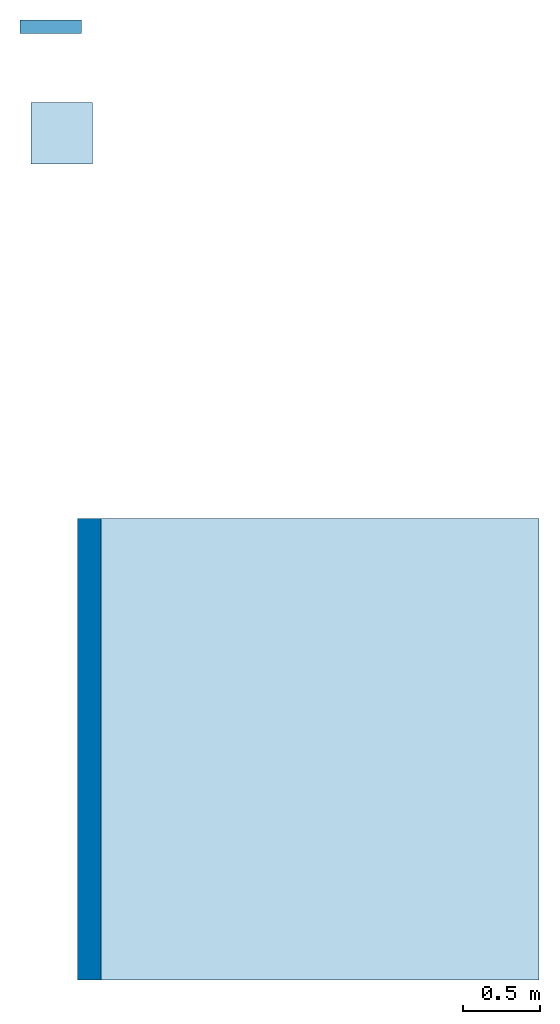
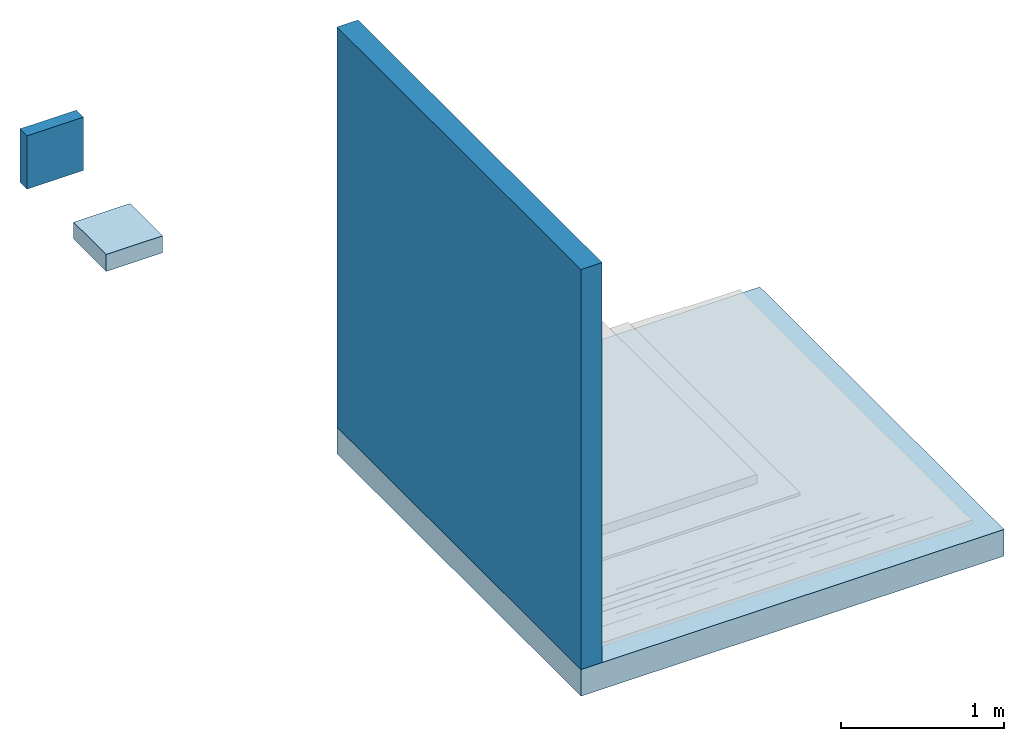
# One storey, part 1 of 2: 2 slabs, 2 walls.
"""IFC2X3 building model written with IfcOpenShell, lengths in metres."""

from ifc_helpers import new_model, entity, si_unit, converted_unit, derived_unit, direction, frame, frame_2d, origin, origin_2d_with_axis, place, context, subcontext, project, spatial, rectangle, extrude, material, layer, layer_set, layer_usage, type_object, element, save


model = new_model("IFC2X3")

# Units and contexts
model_context = context("Model", 3, precision=1e-05, world=origin(), true_north=direction((6.123031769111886e-17, 1.0)))
body_context = subcontext(model_context, "Body", "Model", "MODEL_VIEW")
ifc_project = project(units=[si_unit("LENGTHUNIT", "METRE"), si_unit("AREAUNIT", "SQUARE_METRE"), si_unit("VOLUMEUNIT", "CUBIC_METRE"), converted_unit("PLANEANGLEUNIT", "DEGREE", entity("IfcRatioMeasure", 0.017453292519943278), si_unit("PLANEANGLEUNIT", "RADIAN"), dimensions=[0, 0, 0, 0, 0, 0, 0]), si_unit("MASSUNIT", "GRAM", prefix="KILO"), derived_unit("MASSDENSITYUNIT", [(si_unit("MASSUNIT", "GRAM", prefix="KILO"), 1), (si_unit("LENGTHUNIT", "METRE"), -3)]), derived_unit("IONCONCENTRATIONUNIT", [(si_unit("MASSUNIT", "GRAM", prefix="KILO"), 1), (si_unit("LENGTHUNIT", "METRE"), -3)]), derived_unit("MOMENTOFINERTIAUNIT", [(si_unit("LENGTHUNIT", "METRE"), 4)]), si_unit("TIMEUNIT", "SECOND"), si_unit("FREQUENCYUNIT", "HERTZ"), si_unit("THERMODYNAMICTEMPERATUREUNIT", "DEGREE_CELSIUS"), derived_unit("THERMALTRANSMITTANCEUNIT", [(si_unit("MASSUNIT", "GRAM", prefix="KILO"), 1), (si_unit("THERMODYNAMICTEMPERATUREUNIT", "KELVIN"), -1), (si_unit("TIMEUNIT", "SECOND"), -3)]), derived_unit("THERMALCONDUCTANCEUNIT", [(si_unit("MASSUNIT", "GRAM", prefix="KILO"), 1), (si_unit("THERMODYNAMICTEMPERATUREUNIT", "KELVIN"), -1), (si_unit("TIMEUNIT", "SECOND"), -3), (si_unit("LENGTHUNIT", "METRE"), 1)]), derived_unit("VOLUMETRICFLOWRATEUNIT", [(si_unit("LENGTHUNIT", "METRE"), 3), (si_unit("TIMEUNIT", "SECOND"), -1)]), derived_unit("MASSFLOWRATEUNIT", [(si_unit("MASSUNIT", "GRAM", prefix="KILO"), 1), (si_unit("TIMEUNIT", "SECOND"), -1)]), derived_unit("ROTATIONALFREQUENCYUNIT", [(si_unit("TIMEUNIT", "SECOND"), -1)]), si_unit("ELECTRICCURRENTUNIT", "AMPERE"), si_unit("ELECTRICVOLTAGEUNIT", "VOLT"), si_unit("POWERUNIT", "WATT"), si_unit("FORCEUNIT", "NEWTON", prefix="KILO"), si_unit("ILLUMINANCEUNIT", "LUX"), si_unit("LUMINOUSFLUXUNIT", "LUMEN"), si_unit("LUMINOUSINTENSITYUNIT", "CANDELA"), derived_unit("USERDEFINED", [(si_unit("MASSUNIT", "GRAM", prefix="KILO"), -1), (si_unit("LENGTHUNIT", "METRE"), -2), (si_unit("TIMEUNIT", "SECOND"), 3), (si_unit("LUMINOUSFLUXUNIT", "LUMEN"), 1)]), derived_unit("USERDEFINED", [(si_unit("MASSUNIT", "GRAM", prefix="KILO"), 1), (si_unit("TIMEUNIT", "SECOND"), -3), (si_unit("LENGTHUNIT", "METRE"), 3), (si_unit("ELECTRICCURRENTUNIT", "AMPERE"), -2)]), derived_unit("SOUNDPOWERUNIT", [(si_unit("MASSUNIT", "GRAM", prefix="KILO"), 1), (si_unit("TIMEUNIT", "SECOND"), -3), (si_unit("LENGTHUNIT", "METRE"), 2)]), derived_unit("SOUNDPRESSUREUNIT", [(si_unit("MASSUNIT", "GRAM", prefix="KILO"), 1), (si_unit("LENGTHUNIT", "METRE"), -1), (si_unit("TIMEUNIT", "SECOND"), -2)]), derived_unit("LINEARVELOCITYUNIT", [(si_unit("LENGTHUNIT", "METRE"), 1), (si_unit("TIMEUNIT", "SECOND"), -1)]), si_unit("PRESSUREUNIT", "PASCAL"), derived_unit("USERDEFINED", [(si_unit("MASSUNIT", "GRAM", prefix="KILO"), 1), (si_unit("LENGTHUNIT", "METRE"), -2), (si_unit("TIMEUNIT", "SECOND"), -2)]), derived_unit("LINEARFORCEUNIT", [(si_unit("MASSUNIT", "GRAM", prefix="KILO"), 1), (si_unit("TIMEUNIT", "SECOND"), -2)]), derived_unit("PLANARFORCEUNIT", [(si_unit("MASSUNIT", "GRAM", prefix="KILO"), 1), (si_unit("LENGTHUNIT", "METRE"), -1), (si_unit("TIMEUNIT", "SECOND"), -2)]), derived_unit("SPECIFICHEATCAPACITYUNIT", [(si_unit("THERMODYNAMICTEMPERATUREUNIT", "KELVIN"), -1), (si_unit("LENGTHUNIT", "METRE"), 2), (si_unit("TIMEUNIT", "SECOND"), -2)]), derived_unit("HEATINGVALUEUNIT", [(si_unit("LENGTHUNIT", "METRE"), 2), (si_unit("TIMEUNIT", "SECOND"), -2)]), derived_unit("VAPORPERMEABILITYUNIT", [(si_unit("LENGTHUNIT", "METRE"), -1), (si_unit("TIMEUNIT", "SECOND"), 1)]), derived_unit("DYNAMICVISCOSITYUNIT", [(si_unit("MASSUNIT", "GRAM", prefix="KILO"), 1), (si_unit("TIMEUNIT", "SECOND"), -1), (si_unit("LENGTHUNIT", "METRE"), -1)]), derived_unit("THERMALEXPANSIONCOEFFICIENTUNIT", [(si_unit("THERMODYNAMICTEMPERATUREUNIT", "KELVIN"), -1)]), derived_unit("MODULUSOFELASTICITYUNIT", [(si_unit("MASSUNIT", "GRAM", prefix="KILO"), 1), (si_unit("LENGTHUNIT", "METRE"), -1), (si_unit("TIMEUNIT", "SECOND"), -2)]), derived_unit("ISOTHERMALMOISTURECAPACITYUNIT", [(si_unit("LENGTHUNIT", "METRE"), 3), (si_unit("MASSUNIT", "GRAM", prefix="KILO"), -1)]), derived_unit("MOISTUREDIFFUSIVITYUNIT", [(si_unit("TIMEUNIT", "SECOND"), -1), (si_unit("LENGTHUNIT", "METRE"), 2)])], contexts=[model_context])

# Site, building, storey
site_placement = place(None, origin())
site = spatial("IfcSite", under=ifc_project, at=site_placement, Name="Default", CompositionType="ELEMENT")
building_placement = place(site_placement, origin())
building = spatial("IfcBuilding", under=site, at=building_placement, CompositionType="ELEMENT")
storey_placement = place(building_placement, frame((0.0, 0.0, -0.0025237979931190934)))
storey = spatial("IfcBuildingStorey", under=building, at=storey_placement, Name="ARQ Térreo", CompositionType="ELEMENT", Elevation=-0.0025237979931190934)

# Slabs
ifc_material_1 = material(Name="#concreto")
ifc_layer_1 = layer(ifc_material_1, 0.2)
ifc_layer_set_1 = layer_set([ifc_layer_1], Name="Piso:Piso:LAJE CONCRETO")
ifc_layer_usage_1 = layer_usage(ifc_layer_set_1, "AXIS3", "POSITIVE", 0.0)
slab_type_1 = type_object("IfcSlabType", Name="Piso:Piso:LAJE CONCRETO", PredefinedType="FLOOR", material=ifc_layer_set_1)
slab_1_placement = place(storey_placement, origin())
element("IfcSlab", 1, at=slab_1_placement, inside=storey, type_object=slab_type_1, material=ifc_layer_usage_1, Name="Piso:Piso:LAJE CONCRETO", ObjectType="Piso:Piso:LAJE CONCRETO", PredefinedType="FLOOR", context=body_context, shape_type="SweptSolid", body=[
    extrude(rectangle(XDim=3.0, YDim=3.001000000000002, at=origin_2d_with_axis()), frame((0.9975295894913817, -1.354129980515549, -0.0010000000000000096), z_axis=(0.0, 0.0, -1.0), x_axis=(0.0, 1.0, 0.0)), (0.0, 0.0, 1.0), 0.2),
])
ifc_material_2 = material(Name="#proteção mecânica")
ifc_layer_2 = layer(ifc_material_2, 0.07)
ifc_material_3 = material(Name="#camada amortecedora")
ifc_layer_3 = layer(ifc_material_3, 0.02)
ifc_material_4 = material(Name="#Asfalto Modificado NBR II")
ifc_layer_4 = layer(ifc_material_4, 0.0009999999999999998)
ifc_material_5 = material(Name="# Torodin Extra 4mm - TIPO IV - Classe A")
ifc_layer_5 = layer(ifc_material_5, 0.003999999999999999)
ifc_layer_6 = layer(ifc_material_4, 0.0009999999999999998)
ifc_material_6 = material(Name="#Primer Adeflex")
ifc_layer_7 = layer(ifc_material_6, 0.0009999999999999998)
ifc_material_7 = material(Name="#argamassa")
ifc_layer_8 = layer(ifc_material_7, 0.03)
ifc_layer_set_2 = layer_set([ifc_layer_2, ifc_layer_3, ifc_layer_4, ifc_layer_5, ifc_layer_6, ifc_layer_7, ifc_layer_8], Name="Piso:IMPH_TEXTRA4AA")
ifc_layer_usage_2 = layer_usage(ifc_layer_set_2, "AXIS3", "POSITIVE", 0.0)
slab_type_2 = type_object("IfcSlabType", Name="Piso:IMPH_TEXTRA4AA", PredefinedType="FLOOR", material=ifc_layer_set_2)
slab_2_placement = place(storey_placement, origin())
element("IfcSlab", 2, at=slab_2_placement, inside=storey, type_object=slab_type_2, material=ifc_layer_usage_2, Name="Piso:IMPH_TEXTRA4AA", ObjectType="Piso:IMPH_TEXTRA4AA", PredefinedType="FLOOR", context=body_context, shape_type="SweptSolid", body=[
    extrude(rectangle(XDim=0.4, YDim=0.4, at=origin_2d_with_axis()), frame((-0.6075879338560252, 2.653207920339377, 0.0), z_axis=(0.0, 0.0, -1.0), x_axis=(0.0, 1.0, 0.0)), (0.0, 0.0, 1.0), 0.12699999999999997),
])

# Walls
ifc_layer_9 = layer(ifc_material_1, 0.14999999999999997)
ifc_layer_set_3 = layer_set([ifc_layer_9], Name="Parede básica:Parede básica:Parede Concreto")
ifc_layer_usage_3 = layer_usage(ifc_layer_set_3, "AXIS2", "NEGATIVE", 0.07499999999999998)
wall_type_1 = type_object("IfcWallType", Name="Parede básica:Parede básica:Parede Concreto", PredefinedType="STANDARD", material=ifc_layer_set_3)
wall_1_placement = place(storey_placement, frame((-0.4279704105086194, 0.14587001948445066, -0.000999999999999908), z_axis=(0.0, 0.0, 1.0), x_axis=(0.0, -1.0, 0.0)))
element("IfcWallStandardCase", 3, at=wall_1_placement, inside=storey, type_object=wall_type_1, material=ifc_layer_usage_3, Name="Parede básica:Parede Concreto", ObjectType="Parede básica:Parede Concreto", context=body_context, shape_type="SweptSolid", body=[
    extrude(rectangle(XDim=2.9999999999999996, YDim=0.15000000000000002, at=frame_2d((1.4999999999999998, 0.0), x_axis=(-1.0, 0.0))), origin(), (0.0, 0.0, 1.0), 2.9999999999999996),
])
ifc_layer_10 = layer(ifc_material_2, 0.07)
ifc_layer_11 = layer(ifc_material_4, 0.0009999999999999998)
ifc_layer_12 = layer(ifc_material_5, 0.003999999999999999)
ifc_layer_13 = layer(ifc_material_4, 0.0009999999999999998)
ifc_layer_14 = layer(ifc_material_6, 0.0009999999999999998)
ifc_layer_15 = layer(ifc_material_7, 0.01)
ifc_layer_set_4 = layer_set([ifc_layer_10, ifc_layer_11, ifc_layer_12, ifc_layer_13, ifc_layer_14, ifc_layer_15], Name="Parede básica:IMPV_TEXTRA4AA")
ifc_layer_usage_4 = layer_usage(ifc_layer_set_4, "AXIS2", "NEGATIVE", 0.043500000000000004)
wall_type_2 = type_object("IfcWallType", Name="Parede básica:IMPV_TEXTRA4AA", PredefinedType="STANDARD", material=ifc_layer_set_4)
wall_2_placement = place(storey_placement, frame((-0.47845796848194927, 3.345870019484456, 0.0), z_axis=(0.0, 0.0, 1.0), x_axis=(-1.0, 0.0, 0.0)))
element("IfcWallStandardCase", 4, at=wall_2_placement, inside=storey, type_object=wall_type_2, material=ifc_layer_usage_4, Name="Parede básica:IMPV_T4PP", ObjectType="Parede básica:IMPV_T4PP", context=body_context, shape_type="SweptSolid", body=[
    extrude(rectangle(XDim=0.4, YDim=0.08699999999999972, at=frame_2d((0.2, 0.0), x_axis=(-1.0, 0.0))), origin(), (0.0, 0.0, 1.0), 0.4),
])

save(model, "model.ifc")
